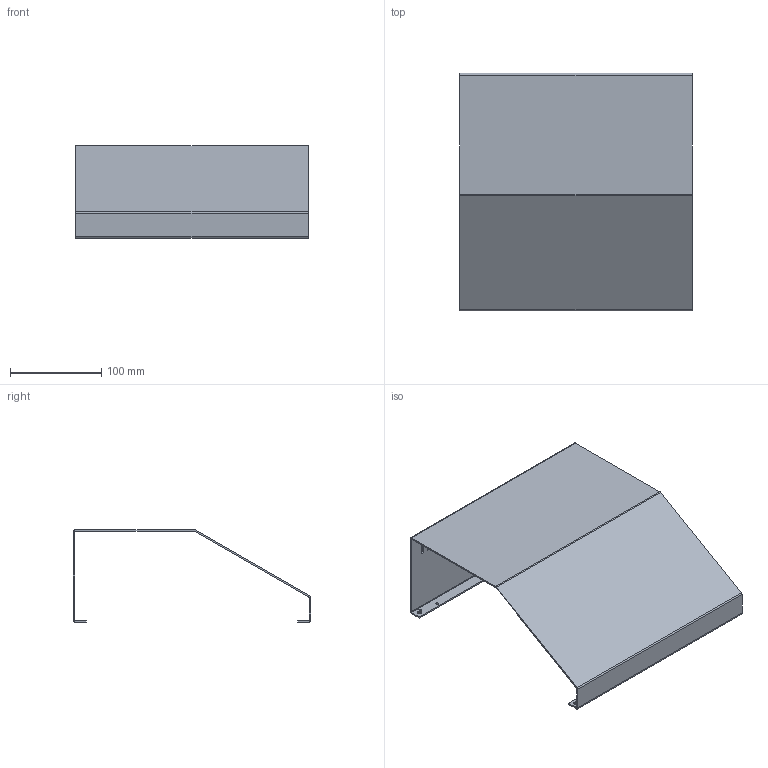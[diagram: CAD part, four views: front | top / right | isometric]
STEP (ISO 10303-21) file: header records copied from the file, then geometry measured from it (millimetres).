
FILE_DESCRIPTION(('FreeCAD Model'),'2;1');
FILE_NAME('Open CASCADE Shape Model','2026-03-16T16:37:24',(''),(''), 'Open CASCADE STEP processor 7.8','FreeCAD','Unknown');
FILE_SCHEMA(('AUTOMOTIVE_DESIGN { 1 0 10303 214 1 1 1 1 }'));
Length unit declared in the file: millimetre
Products named in the file (1): Body
Bounding box: 254 x 259.94 x 101.6 mm (x, y, z)
Volume: 174476.5 mm3; surface area: 219078 mm2
Topology: 1 solids, 1 shells, 134 faces, 420 edges, 288 vertices
Faces by surface type: plane 112, cylinder 22
Full cylindrical faces by diameter (mm): 2.794 x8, 4.801 x4
Entity records: 4830 total; most frequent: CARTESIAN_POINT 843, ORIENTED_EDGE 840, DIRECTION 758, EDGE_CURVE 420, LINE 352, VECTOR 352, VERTEX_POINT 288, FACE_BOUND 206
